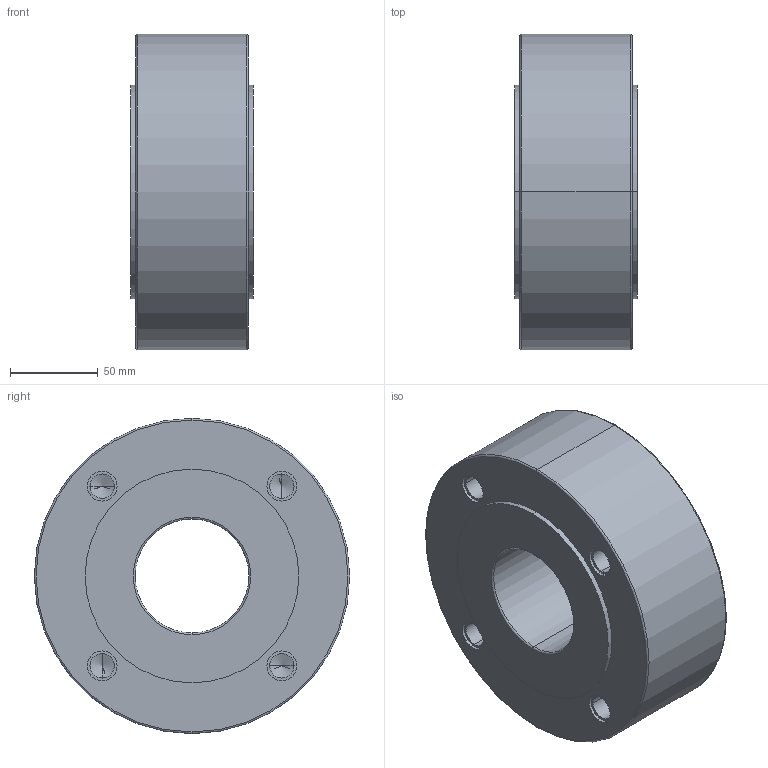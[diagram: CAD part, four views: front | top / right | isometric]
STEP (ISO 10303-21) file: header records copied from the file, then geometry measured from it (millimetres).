
FILE_DESCRIPTION (( 'STEP AP203' ), '1' );
FILE_NAME ('W8_PN10_DN065.STEP', '2012-10-31T06:56:22', ( 'luca.saino' ), ( 'Hewlett-Packard Company' ), 'SwSTEP 2.0', 'SolidWorks 2012', '' );
FILE_SCHEMA (( 'CONFIG_CONTROL_DESIGN' ));
Length unit declared in the file: millimetre
Products named in the file (1): W8_PN10_DN065
Bounding box: 70 x 180 x 180 mm (x, y, z)
Volume: 1438034.4 mm3; surface area: 104051.4 mm2
Topology: 1 solids, 1 shells, 76 faces, 168 edges, 96 vertices
Faces by surface type: cylinder 40, cone 16, plane 12, torus 8
Entity records: 2085 total; most frequent: DIRECTION 402, CARTESIAN_POINT 325, ORIENTED_EDGE 304, AXIS2_PLACEMENT_3D 173, EDGE_CURVE 152, EDGE_LOOP 96, VERTEX_POINT 96, CIRCLE 96
